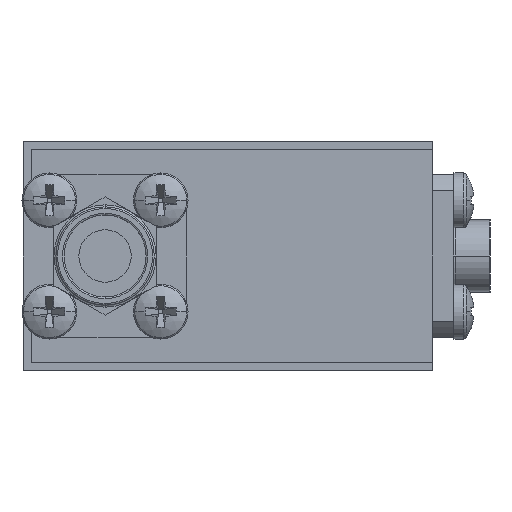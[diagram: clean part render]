
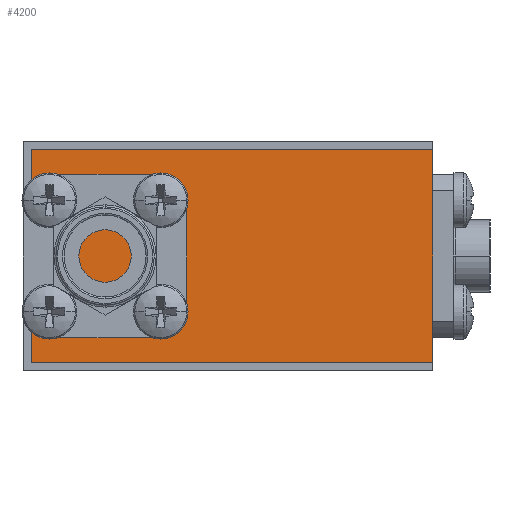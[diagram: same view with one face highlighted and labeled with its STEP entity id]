
A CAD part, left-side view. The second image highlights one B-rep face of the part: STEP entity #4200.
In plain terms, the highlighted planar face has unit normal (-1, 0, 0) as drawn and (1, 0, 0) by its records, which use the part's own axes.
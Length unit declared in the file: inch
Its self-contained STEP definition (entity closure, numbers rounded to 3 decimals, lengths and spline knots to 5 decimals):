
#126 = ORIENTED_EDGE ( 'NONE', *, *, #2646, .T. ) ;
#179 = ORIENTED_EDGE ( 'NONE', *, *, #603, .F. ) ;
#235 = CARTESIAN_POINT ( 'NONE',  ( 0.79, 0.74469, -0.325 ) ) ;
#243 = VECTOR ( 'NONE', #2772, 39.37008 ) ;
#248 = VECTOR ( 'NONE', #2215, 39.37008 ) ;
#307 = CARTESIAN_POINT ( 'NONE',  ( 0.79, -0.48031, 0.325 ) ) ;
#368 = VECTOR ( 'NONE', #2178, 39.37008 ) ;
#377 = EDGE_CURVE ( 'NONE', #1975, #3564, #1125, .T. ) ;
#387 = DIRECTION ( 'NONE',  ( -1., 0., 0. ) ) ;
#404 = DIRECTION ( 'NONE',  ( 0., -1., 0. ) ) ;
#506 = CARTESIAN_POINT ( 'NONE',  ( 0.79, 0.74469, -0.325 ) ) ;
#603 = EDGE_CURVE ( 'NONE', #2503, #1975, #2792, .T. ) ;
#644 = CARTESIAN_POINT ( 'NONE',  ( 0.79, -0.48031, 0.325 ) ) ;
#679 = PLANE ( 'NONE',  #1621 ) ;
#791 = VERTEX_POINT ( 'NONE', #1523 ) ;
#798 = LINE ( 'NONE', #307, #4009 ) ;
#1006 = FACE_OUTER_BOUND ( 'NONE', #4050, .T. ) ;
#1010 = CARTESIAN_POINT ( 'NONE',  ( 0.79, 0.74469, 0.325 ) ) ;
#1125 = LINE ( 'NONE', #1423, #243 ) ;
#1423 = CARTESIAN_POINT ( 'NONE',  ( 0.79, 0.74469, 0.325 ) ) ;
#1497 = ORIENTED_EDGE ( 'NONE', *, *, #4129, .T. ) ;
#1523 = CARTESIAN_POINT ( 'NONE',  ( 0.79, -0.48031, -0.325 ) ) ;
#1621 = AXIS2_PLACEMENT_3D ( 'NONE', #1010, #387, #404 ) ;
#1975 = VERTEX_POINT ( 'NONE', #3257 ) ;
#2178 = DIRECTION ( 'NONE',  ( 0., 1., 0. ) ) ;
#2215 = DIRECTION ( 'NONE',  ( 0., 1., 0. ) ) ;
#2295 = ORIENTED_EDGE ( 'NONE', *, *, #377, .F. ) ;
#2503 = VERTEX_POINT ( 'NONE', #644 ) ;
#2646 = EDGE_CURVE ( 'NONE', #791, #3564, #3078, .T. ) ;
#2772 = DIRECTION ( 'NONE',  ( 0., 0., -1. ) ) ;
#2792 = LINE ( 'NONE', #4300, #248 ) ;
#3078 = LINE ( 'NONE', #506, #368 ) ;
#3084 = DIRECTION ( 'NONE',  ( 0., 0., -1. ) ) ;
#3257 = CARTESIAN_POINT ( 'NONE',  ( 0.79, 0.74469, 0.325 ) ) ;
#3564 = VERTEX_POINT ( 'NONE', #235 ) ;
#4009 = VECTOR ( 'NONE', #3084, 39.37008 ) ;
#4050 = EDGE_LOOP ( 'NONE', ( #126, #2295, #179, #1497 ) ) ;
#4129 = EDGE_CURVE ( 'NONE', #2503, #791, #798, .T. ) ;
#4200 = ADVANCED_FACE ( 'NONE', ( #1006 ), #679, .F. ) ;
#4300 = CARTESIAN_POINT ( 'NONE',  ( 0.79, 0.74469, 0.325 ) ) ;
